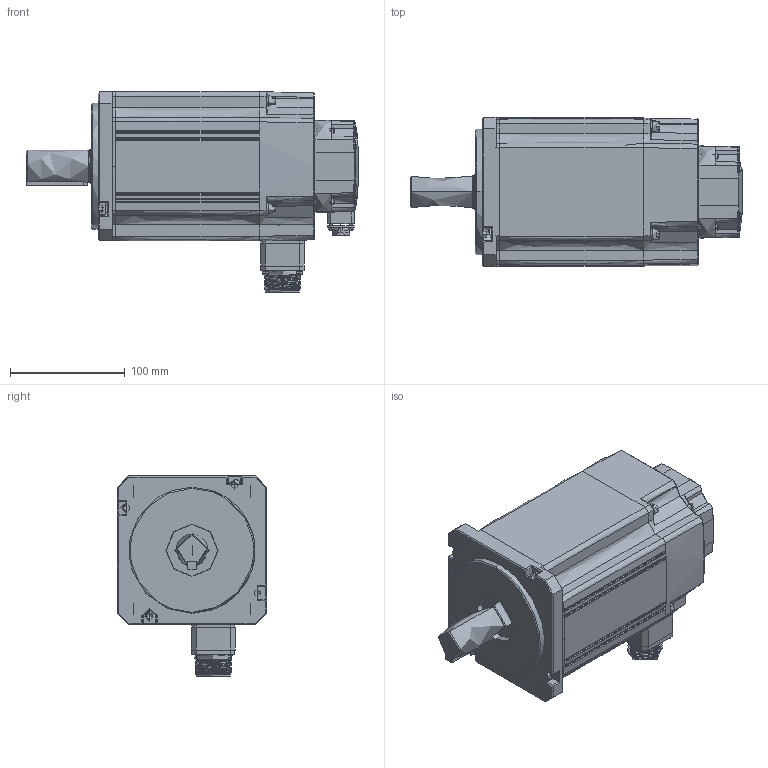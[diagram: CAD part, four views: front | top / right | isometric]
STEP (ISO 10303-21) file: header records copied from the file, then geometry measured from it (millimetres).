
FILE_DESCRIPTION(/* description */ (''),/* implementation_level */ '2;1');
FILE_NAME(/* name */ 'ML8SLX~A',/* time_stamp */ '2022-09-15T15:26:24+01:00',/* author */ (''),/* organization */ (''),/* preprocessor_version */ 'ST-DEVELOPER v16.5',/* originating_system */ '',/* authorisation */ '');
FILE_SCHEMA (('AUTOMOTIVE_DESIGN'));
Products named in the file (2): Document; Block 01
Assembly tree (1 placements, depth 2):
  Document
    Block 01
Bounding box: 289.5 x 130 x 174.95 mm (x, y, z)
Volume: 50380.7 mm3; surface area: 204161.7 mm2
Topology: 43 solids, 44 shells, 4249 faces, 11258 edges, 7135 vertices
Faces by surface type: bspline 2673, plane 1576
Entity records: 180124 total; most frequent: CARTESIAN_POINT 113183, ORIENTED_EDGE 22240, EDGE_CURVE 11121, B_SPLINE_CURVE_WITH_KNOTS 7557, VERTEX_POINT 7136, EDGE_LOOP 4602, ADVANCED_FACE 4249, FACE_OUTER_BOUND 4249
